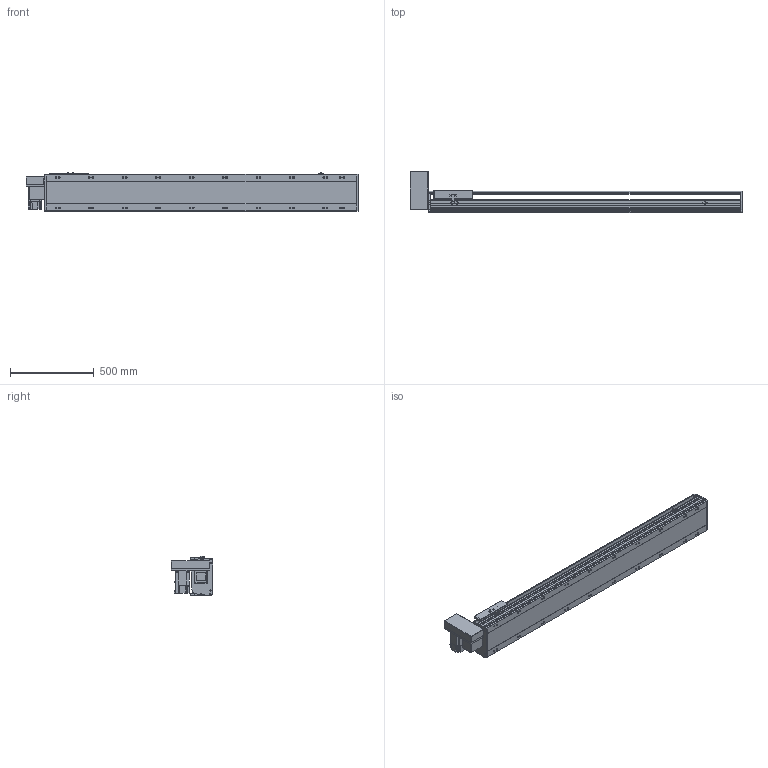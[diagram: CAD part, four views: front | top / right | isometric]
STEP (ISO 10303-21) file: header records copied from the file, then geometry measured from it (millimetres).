
FILE_DESCRIPTION(/* description */ ('STEP AP214'),/* implementation_level */ '2;1');
FILE_NAME(/* name */ 'PBS220-P40-S1500-RU-T75-C1-N(0)',/* time_stamp */ '2022-06-13T02:55:02+02:00',/* author */ ('License CC BY-ND 4.0'),/* organization */ ('CADENAS'),/* preprocessor_version */ 'ST-DEVELOPER v18.102',/* originating_system */ 'PARTsolutions',/* authorisation */ ' ');
FILE_SCHEMA (('AUTOMOTIVE_DESIGN {1 0 10303 214 3 1 1}'));
Length unit declared in the file: millimetre
Products named in the file (7): PBS220-P40-S1500-RU-T75-C1-N(0); PBS220_sensor; PBS220_plant; PBS220_sliser; T75-p1; PBS220T-RU_motors; PBS220-S1500()_body
Assembly tree (8 placements, depth 2):
  PBS220-P40-S1500-RU-T75-C1-N(0)
    PBS220_sensor  x3
    PBS220_plant
    PBS220_sliser
    T75-p1
    PBS220T-RU_motors
    PBS220-S1500()_body
Bounding box: 1984 x 247 x 238.5 mm (x, y, z)
Volume: 28189090.1 mm3; surface area: 2673965 mm2
Topology: 8 solids, 8 shells, 938 faces, 2452 edges, 1594 vertices
Faces by surface type: plane 606, cylinder 288, cone 44
Full cylindrical faces by diameter (mm): 2.013 x4, 4.5 x14, 4.917 x4, 6 x7, 6.647 x8, 8 x10, 8.376 x20, 8.5 x20, 10 x6, 14 x20, 38 x2, 40 x1, 70 x1
Entity records: 26253 total; most frequent: CARTESIAN_POINT 4624, DIRECTION 4563, ORIENTED_EDGE 4178, EDGE_CURVE 2089, AXIS2_PLACEMENT_3D 1607, VERTEX_POINT 1448, LINE 1349, VECTOR 1349
